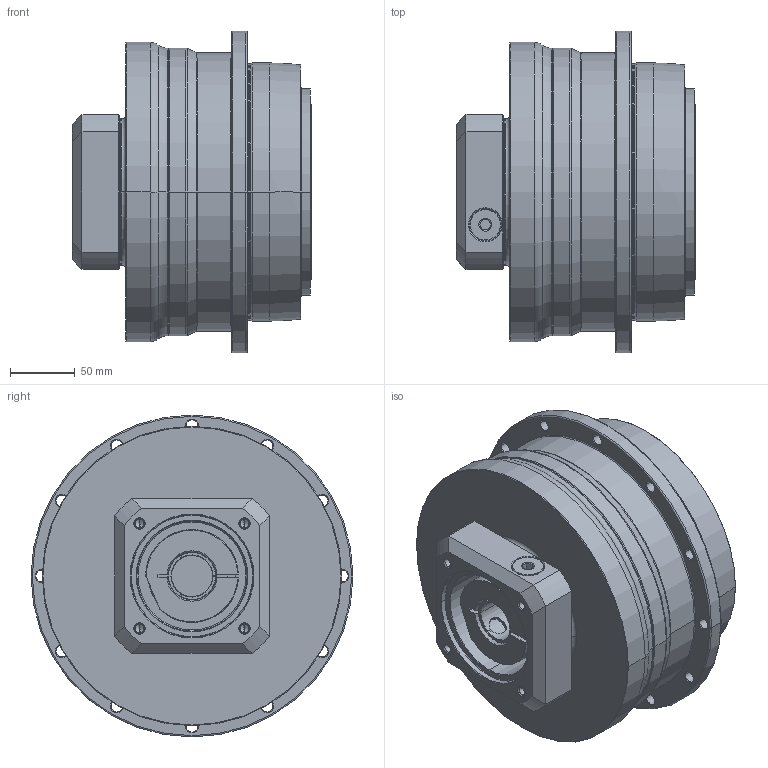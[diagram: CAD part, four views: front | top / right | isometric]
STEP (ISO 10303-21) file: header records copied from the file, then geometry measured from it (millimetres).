
FILE_DESCRIPTION((''),'2;1');
FILE_NAME('AH200_1ST_32-P0409700101_ASM','2016-08-18T',('d00435'),(''),'PRO/ENGINEER BY PARAMETRIC TECHNOLOGY CORPORATION, 2008410','PRO/ENGINEER BY PARAMETRIC TECHNOLOGY CORPORATION, 2008410','');
FILE_SCHEMA(('CONFIG_CONTROL_DESIGN'));
Length unit declared in the file: millimetre
Products named in the file (8): P0278600003; P0359600003; P1318600001; P0409700101; P0503700010; P0912600201; 21711418017; AH200_1ST_32-P0409700101_ASM
Assembly tree (7 placements, depth 2):
  AH200_1ST_32-P0409700101_ASM
    P0278600003
    P0359600003
    P1318600001
    P0409700101
    P0503700010
    P0912600201
    21711418017
Bounding box: 185.5 x 249.5 x 249.5 mm (x, y, z)
Volume: 5760520.7 mm3; surface area: 497545.2 mm2
Topology: 8 solids, 32 shells, 616 faces, 1465 edges, 891 vertices
Faces by surface type: cylinder 254, cone 170, plane 116, torus 62, bspline 14
Entity records: 22344 total; most frequent: CARTESIAN_POINT 7716, DIRECTION 3343, ORIENTED_EDGE 2742, AXIS2_PLACEMENT_3D 1424, EDGE_CURVE 1419, VERTEX_POINT 891, CIRCLE 797, EDGE_LOOP 726
